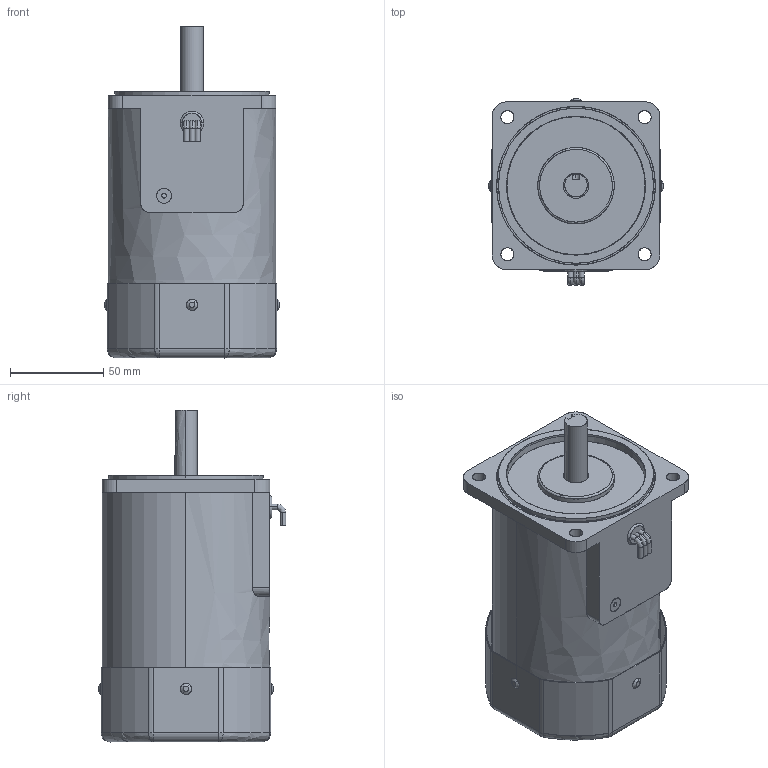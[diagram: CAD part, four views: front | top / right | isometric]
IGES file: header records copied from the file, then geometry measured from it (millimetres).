
Start section: SolidWorks IGES file using analytic representation for surfaces
Bounding box: 94 x 100.5 x 178 mm (x, y, z)
Surface area: 136408 mm2 (no closed solid volume)
Topology: 0 solids, 0 shells, 213 faces, 3851 edges, 3835 vertices
Faces by surface type: revolution 108, bspline 105
